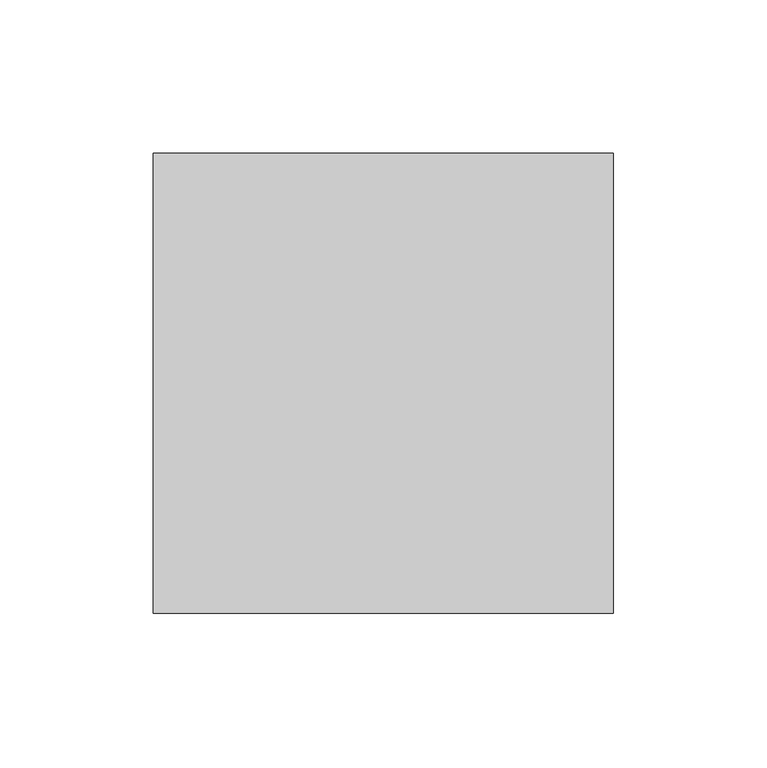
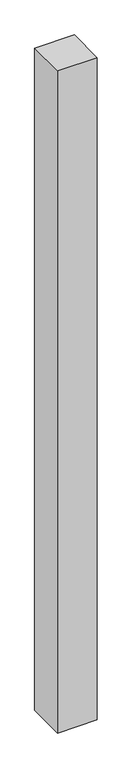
"""IFC4 building model written with IfcOpenShell, lengths in millimetres: proxy geometry, Брус : 150х150."""

from ifc_helpers import new_model, si_unit, origin, origin_with_axes, place, context, project, spatial, polyline, outline, extrude, source, transform, mapped, element, save


def generic_models_d7380c55(model_context):
    return source(origin(), model_context, "Body", "SweptSolid", [
        extrude(outline(polyline([(150.0, 0.0), (0.0, 0.0), (0.0, 150.0), (150.0, 150.0), (150.0, 0.0)])), origin_with_axes(), (0.0, 0.0, 1.0), 2650.0),
    ])


if __name__ == "__main__":
    model = new_model("IFC4")
    model_context = context("Model", 3, world=origin())
    ifc_project = project(units=[si_unit("LENGTHUNIT", "METRE", prefix="MILLI")], contexts=[model_context])
    site = spatial("IfcSite", under=ifc_project)
    building = spatial("IfcBuilding", under=site)
    placement = place(None, origin())
    generic_models_shape = generic_models_d7380c55(model_context)
    element("IfcBuildingElementProxy", 1, Name="Брус : 150х150", ObjectType="Брус : 150х150", at=placement, inside=building, context=model_context, shape_type="MappedRepresentation", body=[
        mapped(generic_models_shape, transform((0.0, 0.0, 0.0), x_axis=(1.0, 0.0, 0.0), y_axis=(0.0, 1.0, 0.0), z_axis=(0.0, 0.0, 1.0))),
    ])
    save(model, "model.ifc")
